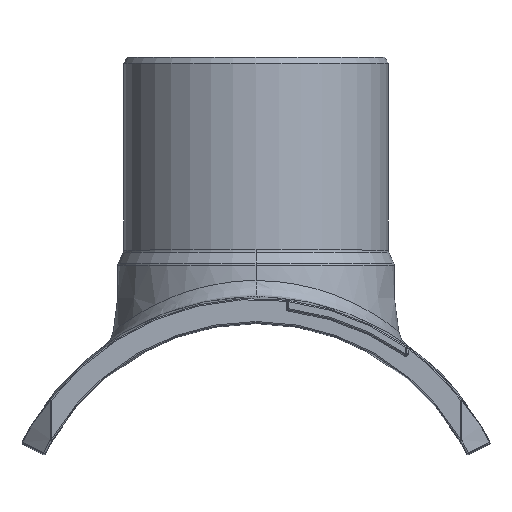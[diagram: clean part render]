
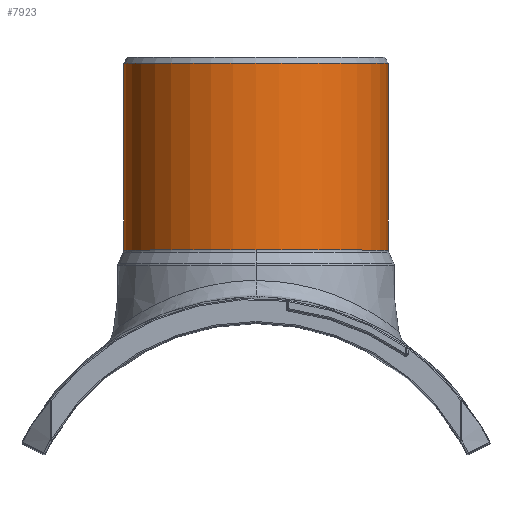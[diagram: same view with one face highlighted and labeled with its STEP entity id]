
A CAD part, top view. The second image highlights one B-rep face of the part: STEP entity #7923.
In plain terms, the highlighted cylindrical face has radius 112.5 mm (diameter 225 mm), a partial arc.
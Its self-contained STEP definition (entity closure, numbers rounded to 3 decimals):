
#1722=CARTESIAN_POINT('',(0.,262.083,0.));
#1723=DIRECTION('',(0.,-1.,0.));
#1724=DIRECTION('',(1.,0.,0.));
#1725=AXIS2_PLACEMENT_3D('',#1722,#1723,#1724);
#1730=CARTESIAN_POINT('',(0.,262.083,0.));
#1731=DIRECTION('',(0.,-1.,0.));
#1732=DIRECTION('',(0.,0.,1.));
#1733=AXIS2_PLACEMENT_3D('',#1730,#1731,#1732);
#1738=DIRECTION('',(0.,-1.,0.));
#1739=VECTOR('',#1738,158.917);
#1740=CARTESIAN_POINT('',(-112.5,421.,0.));
#1741=LINE('151588',#1740,#1739);
#1745=DIRECTION('',(0.,-1.,0.));
#1746=VECTOR('',#1745,158.917);
#1747=CARTESIAN_POINT('',(112.5,421.,0.));
#1748=LINE('151587',#1747,#1746);
#1799=CARTESIAN_POINT('',(0.,421.,0.));
#1800=DIRECTION('',(0.,1.,0.));
#1801=DIRECTION('',(-1.,0.,0.));
#1802=AXIS2_PLACEMENT_3D('',#1799,#1800,#1801);
#6131=CARTESIAN_POINT('',(112.5,421.,0.));
#6132=CARTESIAN_POINT('',(-112.5,421.,0.));
#6133=VERTEX_POINT('',#6131);
#6134=VERTEX_POINT('',#6132);
#6155=CARTESIAN_POINT('',(112.5,262.083,0.));
#6156=CARTESIAN_POINT('',(0.,262.083,112.5));
#6157=VERTEX_POINT('',#6155);
#6158=VERTEX_POINT('',#6156);
#6159=CARTESIAN_POINT('',(-112.5,262.083,0.));
#6160=VERTEX_POINT('',#6159);
#7908=CARTESIAN_POINT('',(0.,426.,0.));
#7909=DIRECTION('',(0.,1.,0.));
#7910=DIRECTION('',(1.,0.,0.));
#7911=AXIS2_PLACEMENT_3D('',#7908,#7909,#7910);
#7912=CYLINDRICAL_SURFACE('4584',#7911,112.5);
#7913=ORIENTED_EDGE('151579',*,*,#7885,.T.);
#7914=ORIENTED_EDGE('151581',*,*,#7900,.T.);
#7916=ORIENTED_EDGE('151588',*,*,#7915,.F.);
#7918=ORIENTED_EDGE('4600',*,*,#7917,.T.);
#7920=ORIENTED_EDGE('151587',*,*,#7919,.T.);
#7921=EDGE_LOOP('4584',(#7913,#7914,#7916,#7918,#7920));
#7922=FACE_OUTER_BOUND('4584',#7921,.F.);
#1726=CIRCLE('151579',#1725,112.5);
#1734=CIRCLE('151581',#1733,112.5);
#1803=CIRCLE('4600',#1802,112.5);
#7885=EDGE_CURVE('151579',#6157,#6158,#1726,.T.);
#7900=EDGE_CURVE('151581',#6158,#6160,#1734,.T.);
#7915=EDGE_CURVE('151588',#6134,#6160,#1741,.T.);
#7917=EDGE_CURVE('4600',#6134,#6133,#1803,.T.);
#7919=EDGE_CURVE('151587',#6133,#6157,#1748,.T.);
#7923=ADVANCED_FACE('4584',(#7922),#7912,.T.);
